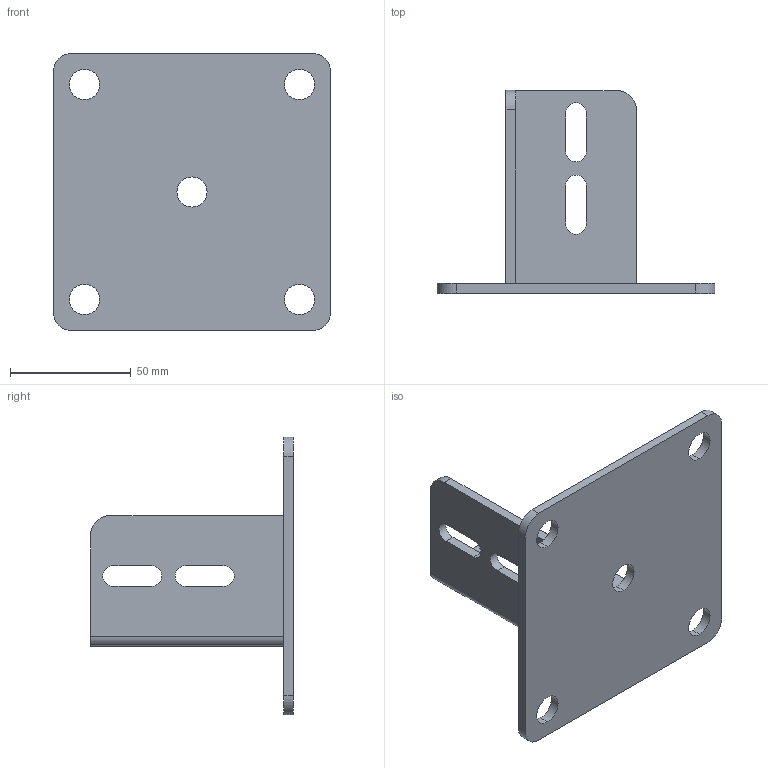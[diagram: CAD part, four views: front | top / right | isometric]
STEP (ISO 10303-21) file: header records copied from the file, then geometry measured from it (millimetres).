
FILE_DESCRIPTION (( 'STEP AP214' ), '1' );
FILE_NAME ('11501.STEP', '2024-08-13T13:16:43', ( 'Àëåêñåé' ), ( '' ), 'SwSTEP 2.0', 'SolidWorks 2022', '' );
FILE_SCHEMA (( 'AUTOMOTIVE_DESIGN' ));
Length unit declared in the file: millimetre
Products named in the file (2): 11501
Assembly tree (1 placements, depth 2):
  11501
    11501
Bounding box: 115 x 84 x 115 mm (x, y, z)
Volume: 80037.4 mm3; surface area: 44140.9 mm2
Topology: 1 solids, 1 shells, 46 faces, 129 edges, 86 vertices
Faces by surface type: cylinder 25, plane 21
Entity records: 1605 total; most frequent: DIRECTION 279, CARTESIAN_POINT 265, ORIENTED_EDGE 258, EDGE_CURVE 129, AXIS2_PLACEMENT_3D 100, VERTEX_POINT 86, LINE 79, VECTOR 79
